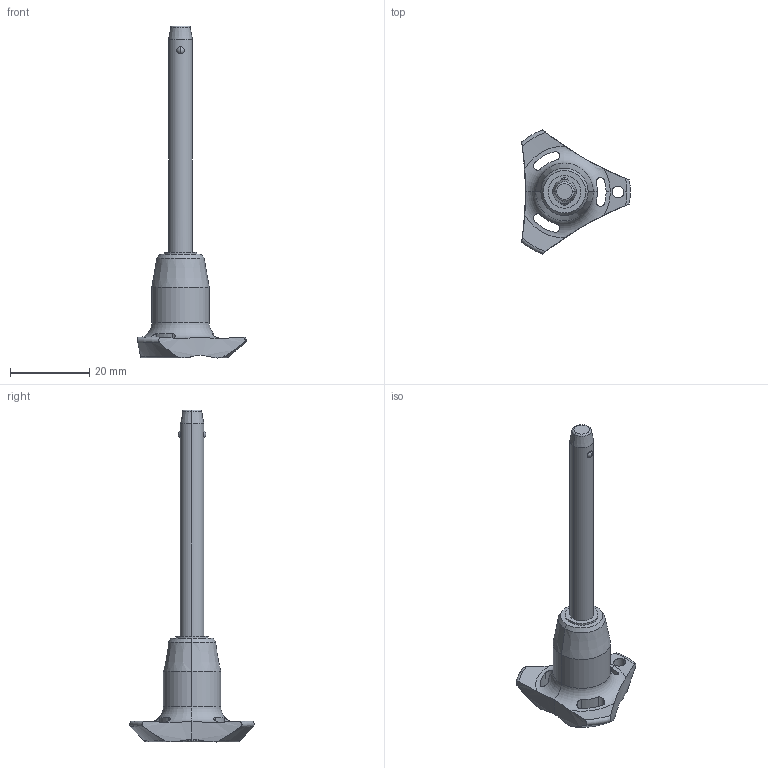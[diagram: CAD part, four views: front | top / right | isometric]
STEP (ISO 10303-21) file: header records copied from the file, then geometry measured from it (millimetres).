
FILE_DESCRIPTION (( 'STEP AP203' ), '1' );
FILE_NAME ('QR1714.M06-050-S.step', '2025-11-12T10:00:26', ( '' ), ( '' ), 'SwSTEP 2.0', 'SolidWorks 2019', '' );
FILE_SCHEMA (( 'CONFIG_CONTROL_DESIGN' ));
Length unit declared in the file: millimetre
Products named in the file (1): QR1714.M06-050-S
Bounding box: 27.4 x 31.31 x 83.7 mm (x, y, z)
Volume: 6379.8 mm3; surface area: 3495.3 mm2
Topology: 1 solids, 1 shells, 66 faces, 181 edges, 115 vertices
Faces by surface type: cylinder 30, cone 14, torus 12, sphere 6, plane 4
Entity records: 2709 total; most frequent: CARTESIAN_POINT 997, ORIENTED_EDGE 362, DIRECTION 332, EDGE_CURVE 181, AXIS2_PLACEMENT_3D 148, VERTEX_POINT 115, CIRCLE 81, EDGE_LOOP 72
